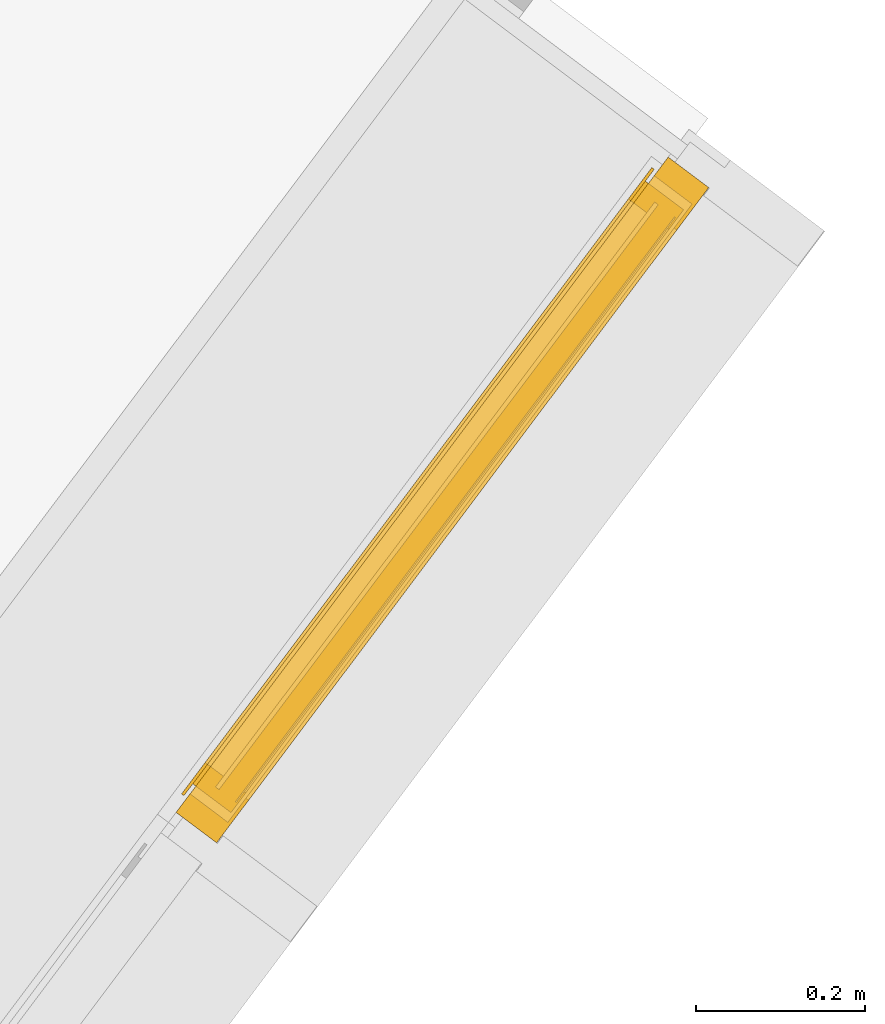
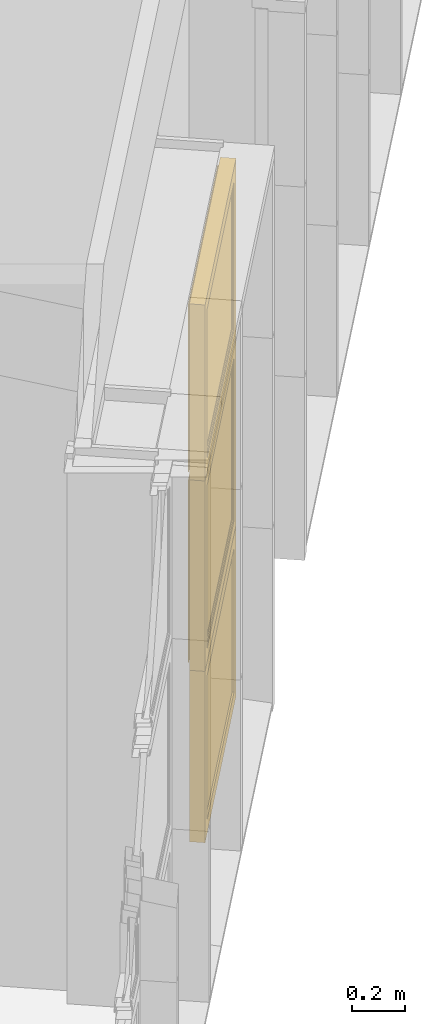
# One storey, part 157 of 243: 3 windows, 1 element without a shape of its own.
"""IFC2X3 building model written with IfcOpenShell, lengths in metres."""

from ifc_helpers import new_model, entity, si_unit, converted_unit, derived_unit, direction, frame, origin, place, context, subcontext, project, spatial, faceted_brep, source, transform, mapped, material, material_list, type_object, type_shapes, element, aggregate, save


model = new_model("IFC2X3")

# Units and contexts
model_context = context("Model", 3, precision=1e-05, world=origin(), true_north=direction((6.123031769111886e-17, 1.0)))
body_context = subcontext(model_context, "Body", "Model", "MODEL_VIEW")
ifc_project = project(units=[si_unit("LENGTHUNIT", "METRE"), si_unit("AREAUNIT", "SQUARE_METRE"), si_unit("VOLUMEUNIT", "CUBIC_METRE"), converted_unit("PLANEANGLEUNIT", "DEGREE", entity("IfcRatioMeasure", 0.017453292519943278), si_unit("PLANEANGLEUNIT", "RADIAN"), dimensions=[0, 0, 0, 0, 0, 0, 0]), si_unit("MASSUNIT", "GRAM", prefix="KILO"), derived_unit("MASSDENSITYUNIT", [(si_unit("MASSUNIT", "GRAM", prefix="KILO"), 1), (si_unit("LENGTHUNIT", "METRE"), -3)]), derived_unit("IONCONCENTRATIONUNIT", [(si_unit("MASSUNIT", "GRAM", prefix="KILO"), 1), (si_unit("LENGTHUNIT", "METRE"), -3)]), derived_unit("MOMENTOFINERTIAUNIT", [(si_unit("LENGTHUNIT", "METRE"), 4)]), si_unit("TIMEUNIT", "SECOND"), si_unit("FREQUENCYUNIT", "HERTZ"), si_unit("THERMODYNAMICTEMPERATUREUNIT", "DEGREE_CELSIUS"), derived_unit("THERMALTRANSMITTANCEUNIT", [(si_unit("MASSUNIT", "GRAM", prefix="KILO"), 1), (si_unit("THERMODYNAMICTEMPERATUREUNIT", "KELVIN"), -1), (si_unit("TIMEUNIT", "SECOND"), -3)]), derived_unit("THERMALCONDUCTANCEUNIT", [(si_unit("MASSUNIT", "GRAM", prefix="KILO"), 1), (si_unit("THERMODYNAMICTEMPERATUREUNIT", "KELVIN"), -1), (si_unit("TIMEUNIT", "SECOND"), -3), (si_unit("LENGTHUNIT", "METRE"), 1)]), derived_unit("VOLUMETRICFLOWRATEUNIT", [(si_unit("LENGTHUNIT", "METRE"), 3), (si_unit("TIMEUNIT", "SECOND"), -1)]), derived_unit("MASSFLOWRATEUNIT", [(si_unit("MASSUNIT", "GRAM", prefix="KILO"), 1), (si_unit("TIMEUNIT", "SECOND"), -1)]), derived_unit("ROTATIONALFREQUENCYUNIT", [(si_unit("TIMEUNIT", "SECOND"), -1)]), si_unit("ELECTRICCURRENTUNIT", "AMPERE"), si_unit("ELECTRICVOLTAGEUNIT", "VOLT"), si_unit("POWERUNIT", "WATT"), si_unit("FORCEUNIT", "NEWTON", prefix="KILO"), si_unit("ILLUMINANCEUNIT", "LUX"), si_unit("LUMINOUSFLUXUNIT", "LUMEN"), si_unit("LUMINOUSINTENSITYUNIT", "CANDELA"), derived_unit("USERDEFINED", [(si_unit("MASSUNIT", "GRAM", prefix="KILO"), -1), (si_unit("LENGTHUNIT", "METRE"), -2), (si_unit("TIMEUNIT", "SECOND"), 3), (si_unit("LUMINOUSFLUXUNIT", "LUMEN"), 1)]), derived_unit("USERDEFINED", [(si_unit("MASSUNIT", "GRAM", prefix="KILO"), 1), (si_unit("TIMEUNIT", "SECOND"), -3), (si_unit("LENGTHUNIT", "METRE"), 3), (si_unit("ELECTRICCURRENTUNIT", "AMPERE"), -2)]), derived_unit("SOUNDPOWERUNIT", [(si_unit("MASSUNIT", "GRAM", prefix="KILO"), 1), (si_unit("TIMEUNIT", "SECOND"), -3), (si_unit("LENGTHUNIT", "METRE"), 2)]), derived_unit("SOUNDPRESSUREUNIT", [(si_unit("MASSUNIT", "GRAM", prefix="KILO"), 1), (si_unit("LENGTHUNIT", "METRE"), -1), (si_unit("TIMEUNIT", "SECOND"), -2)]), derived_unit("LINEARVELOCITYUNIT", [(si_unit("LENGTHUNIT", "METRE"), 1), (si_unit("TIMEUNIT", "SECOND"), -1)]), si_unit("PRESSUREUNIT", "PASCAL"), derived_unit("USERDEFINED", [(si_unit("MASSUNIT", "GRAM", prefix="KILO"), 1), (si_unit("LENGTHUNIT", "METRE"), -2), (si_unit("TIMEUNIT", "SECOND"), -2)]), derived_unit("LINEARFORCEUNIT", [(si_unit("MASSUNIT", "GRAM", prefix="KILO"), 1), (si_unit("TIMEUNIT", "SECOND"), -2)]), derived_unit("PLANARFORCEUNIT", [(si_unit("MASSUNIT", "GRAM", prefix="KILO"), 1), (si_unit("LENGTHUNIT", "METRE"), -1), (si_unit("TIMEUNIT", "SECOND"), -2)]), derived_unit("SPECIFICHEATCAPACITYUNIT", [(si_unit("THERMODYNAMICTEMPERATUREUNIT", "KELVIN"), -1), (si_unit("LENGTHUNIT", "METRE"), 2), (si_unit("TIMEUNIT", "SECOND"), -2)]), derived_unit("HEATINGVALUEUNIT", [(si_unit("LENGTHUNIT", "METRE"), 2), (si_unit("TIMEUNIT", "SECOND"), -2)]), derived_unit("VAPORPERMEABILITYUNIT", [(si_unit("LENGTHUNIT", "METRE"), -1), (si_unit("TIMEUNIT", "SECOND"), 1)]), derived_unit("DYNAMICVISCOSITYUNIT", [(si_unit("MASSUNIT", "GRAM", prefix="KILO"), 1), (si_unit("TIMEUNIT", "SECOND"), -1), (si_unit("LENGTHUNIT", "METRE"), -1)]), derived_unit("THERMALEXPANSIONCOEFFICIENTUNIT", [(si_unit("THERMODYNAMICTEMPERATUREUNIT", "KELVIN"), -1)]), derived_unit("MODULUSOFELASTICITYUNIT", [(si_unit("MASSUNIT", "GRAM", prefix="KILO"), 1), (si_unit("LENGTHUNIT", "METRE"), -1), (si_unit("TIMEUNIT", "SECOND"), -2)]), derived_unit("ISOTHERMALMOISTURECAPACITYUNIT", [(si_unit("LENGTHUNIT", "METRE"), 3), (si_unit("MASSUNIT", "GRAM", prefix="KILO"), -1)]), derived_unit("MOISTUREDIFFUSIVITYUNIT", [(si_unit("TIMEUNIT", "SECOND"), -1), (si_unit("LENGTHUNIT", "METRE"), 2)])], contexts=[model_context])

# Site, building, storey
site_placement = place(None, frame((0.0, 0.0, 235.0), z_axis=(0.0, 0.0, 1.0), x_axis=(-0.7996477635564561, 0.6004693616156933, 0.0)))
site = spatial("IfcSite", under=ifc_project, at=site_placement, Name="Default", CompositionType="ELEMENT")
building_placement = place(site_placement, origin())
building = spatial("IfcBuilding", under=site, at=building_placement, CompositionType="ELEMENT")
storey_placement = place(building_placement, origin())
storey = spatial("IfcBuildingStorey", under=building, at=storey_placement, Name="P0- Escola", CompositionType="ELEMENT", Elevation=0.0)

# Curtain wall, windows
curtain_wall_type = type_object("IfcCurtainWallType", Name="Muro cortina:MC- EXT- MC2", PredefinedType="NOTDEFINED")
curtain_wall_placement = place(storey_placement, origin())
curtain_wall = element("IfcCurtainWall", 1, at=curtain_wall_placement, inside=storey, type_object=curtain_wall_type, Name="Muro cortina:MC- EXT- MC2", ObjectType="Muro cortina:MC- EXT- MC2")
ifc_material_1 = material(Name="_Vidre")
ifc_material_2 = material(Name="_Alumini- T1- Perfil")
ifc_material_list = material_list([ifc_material_1, ifc_material_2])
window_style_1 = type_object("IfcWindowStyle", Name="MC- Alu- Conjunt vidre fix- 62x60 cm:MC- Alu- Conjunt vidre fix- 62x60 cm", ConstructionType="NOTDEFINED", OperationType="NOTDEFINED", ParameterTakesPrecedence=False, Sizeable=False, material=ifc_material_list)
shared_shape_1 = source(origin(), body_context, "Body", "Brep", [
    faceted_brep([(0.4361932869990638, -0.007600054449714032, 0.048806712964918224), (0.4361932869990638, -0.03160022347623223, 0.048806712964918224), (-0.4361932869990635, -0.03160022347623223, 0.048806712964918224), (-0.4361932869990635, -0.007600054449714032, 0.048806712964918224), (0.4361932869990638, -0.007600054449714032, 0.7387000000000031), (-0.4361932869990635, -0.007600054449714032, 0.7387000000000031), (-0.4361932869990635, -0.03160022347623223, 0.7387000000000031), (0.4361932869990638, -0.03160022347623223, 0.7387000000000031)], [[[0, 1, 2, 3]], [[4, 0, 3, 5]], [[5, 3, 2, 6]], [[6, 2, 1, 7]], [[7, 1, 0, 4]], [[4, 5, 6, 7]]]),
    faceted_brep([(0.48499999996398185, -0.05999999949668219, 0.7877000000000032), (0.48499999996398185, -0.05999999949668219, 0.0), (0.48499999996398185, 0.0, 0.0), (0.48499999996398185, 0.0, 0.787700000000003), (-0.48499999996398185, 0.0, 0.7877000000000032), (-0.48499999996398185, 0.0, 0.0), (0.4221931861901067, 0.0, 0.7248931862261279), (-0.42219318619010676, 0.0, 0.724893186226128), (-0.4221931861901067, 0.0, 0.0628068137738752), (0.4221931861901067, 0.0, 0.06280681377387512), (-0.48499999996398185, -0.05999999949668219, 0.0), (-0.48499999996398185, -0.05999999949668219, 0.7877000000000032), (-0.42219603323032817, -0.05999999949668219, 0.7248960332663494), (0.42219603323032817, -0.05999999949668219, 0.7248960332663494), (0.42219603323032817, -0.05999999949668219, 0.0628039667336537), (-0.42219603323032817, -0.05999999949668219, 0.0628039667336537), (0.4221960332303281, -0.03160022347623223, 0.7248960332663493), (0.42219603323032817, -0.03160022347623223, 0.0628039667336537), (-0.42219603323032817, -0.03160022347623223, 0.06280396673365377), (-0.42219603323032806, -0.03160022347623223, 0.7248960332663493), (-0.43619328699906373, -0.03160022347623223, 0.738893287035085), (0.43619328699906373, -0.03160022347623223, 0.738893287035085), (0.43619328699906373, -0.03160022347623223, 0.048806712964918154), (-0.43619328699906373, -0.03160022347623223, 0.04880671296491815), (0.43619328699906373, -0.007600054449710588, 0.738893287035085), (0.43619328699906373, -0.007600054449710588, 0.04880671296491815), (-0.43619328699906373, -0.007600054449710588, 0.048806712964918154), (-0.43619328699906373, -0.007600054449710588, 0.738893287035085), (-0.42219318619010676, -0.007600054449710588, 0.724893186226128), (0.42219318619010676, -0.007600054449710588, 0.724893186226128), (0.42219318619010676, -0.007600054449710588, 0.06280681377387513), (-0.42219318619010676, -0.007600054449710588, 0.06280681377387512)], [[[0, 1, 2, 3]], [[4, 3, 2, 5], [6, 7, 8, 9]], [[1, 10, 5, 2]], [[0, 11, 10, 1], [12, 13, 14, 15]], [[16, 17, 14, 13]], [[17, 18, 15, 14]], [[16, 19, 18, 17], [20, 21, 22, 23]], [[24, 25, 22, 21]], [[25, 26, 23, 22]], [[24, 27, 26, 25], [28, 29, 30, 31]], [[6, 9, 30, 29]], [[9, 8, 31, 30]], [[10, 11, 4, 5]], [[18, 19, 12, 15]], [[26, 27, 20, 23]], [[8, 7, 28, 31]], [[11, 0, 3, 4]], [[19, 16, 13, 12]], [[27, 24, 21, 20]], [[7, 6, 29, 28]]], outer=[[True], [True, False], [True], [True, False], [True], [True], [False, True], [True], [True], [True, False], [True], [True], [True], [True], [True], [True], [True], [True], [True], [True]]),
])
type_shapes(window_style_1, [shared_shape_1])
window_1_placement = place(curtain_wall_placement, frame((28.34514768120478, -23.915191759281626, 0.03229999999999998), z_axis=(0.0, 0.0, 1.0), x_axis=(0.0, 1.0, 0.0)))
window_1 = element("IfcWindow", 2, at=window_1_placement, type_object=window_style_1, material=ifc_material_list, Name="MC- Alu- Conjunt vidre fix- 62x60 cm:MC- Alu- Conjunt vidre fix- 62x60 cm", ObjectType="MC- Alu- Conjunt vidre fix- 62x60 cm:MC- Alu- Conjunt vidre fix- 62x60 cm", OverallHeight=0.7877000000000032, OverallWidth=0.9699999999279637, context=body_context, shape_type="MappedRepresentation", body=[
    mapped(shared_shape_1, transform((0.0, 0.0, 0.0), scale=1.0)),
])
window_style_2 = type_object("IfcWindowStyle", Name="MC- Alu- Conjunt finestra basculant- 68x68 cm:MC- Alu- Conjunt finestra basculant- 68x68 cm", ConstructionType="NOTDEFINED", OperationType="NOTDEFINED", ParameterTakesPrecedence=False, Sizeable=False, material=ifc_material_list)
shared_shape_2 = source(origin(), body_context, "Body", "Brep", [
    faceted_brep([(0.43291170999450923, -0.03559830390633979, 0.051999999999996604), (-0.43291170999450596, -0.03559830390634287, 0.051999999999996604), (-0.43291170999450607, -0.011598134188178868, 0.051999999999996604), (0.43291170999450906, -0.011598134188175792, 0.051999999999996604), (0.43291170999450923, -0.035598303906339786, 0.8228027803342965), (0.43291170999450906, -0.011598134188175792, 0.8228027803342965), (-0.43291170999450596, -0.011598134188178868, 0.8228027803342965), (-0.43291170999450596, -0.03559830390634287, 0.8228027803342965)], [[[0, 1, 2, 3]], [[4, 0, 3, 5]], [[5, 3, 2, 6]], [[6, 2, 1, 7]], [[7, 1, 0, 4]], [[4, 5, 6, 7]]]),
    faceted_brep([(-0.4172108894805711, -0.009998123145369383, 0.8071019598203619), (-0.4172108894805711, -0.00999812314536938, 0.06789804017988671), (-0.4172108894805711, -0.007998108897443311, 0.06789804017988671), (-0.4172108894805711, -0.007998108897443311, 0.8071019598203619), (-0.44610892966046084, -0.007998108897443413, 0.8360000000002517), (0.44610892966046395, -0.007998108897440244, 0.8360000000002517), (0.44610892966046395, -0.007998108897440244, 0.03899999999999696), (-0.44610892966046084, -0.007998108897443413, 0.03899999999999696), (0.4172108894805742, -0.007998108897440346, 0.8071019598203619), (0.4172108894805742, -0.007998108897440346, 0.06789804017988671), (0.4172108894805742, -0.009998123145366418, 0.06789804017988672), (0.4172108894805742, -0.009998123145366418, 0.8071019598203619), (0.4329117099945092, -0.00999812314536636, 0.8228027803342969), (-0.43291170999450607, -0.009998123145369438, 0.8228027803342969), (-0.43291170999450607, -0.009998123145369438, 0.05219721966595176), (0.4329117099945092, -0.00999812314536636, 0.052197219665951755), (-0.4329117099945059, -0.04079986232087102, 0.8228027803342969), (-0.4329117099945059, -0.04079986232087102, 0.052197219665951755), (0.4329117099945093, -0.04079986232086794, 0.05219721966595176), (0.4329117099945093, -0.04079986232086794, 0.8228027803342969), (0.41721088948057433, -0.040799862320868, 0.8071019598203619), (-0.41721088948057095, -0.04079986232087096, 0.8071019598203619), (-0.41721088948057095, -0.04079986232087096, 0.06789804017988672), (0.41721088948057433, -0.040799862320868, 0.06789804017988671), (-0.4172108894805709, -0.06800005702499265, 0.8071019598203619), (-0.4172108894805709, -0.06800005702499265, 0.06789804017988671), (0.4172108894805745, -0.0680000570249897, 0.06789804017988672), (0.4172108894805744, -0.0680000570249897, 0.8071019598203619), (0.4636128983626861, -0.06800005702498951, 0.8535039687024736), (-0.4636128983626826, -0.06800005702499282, 0.8535039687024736), (-0.4636128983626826, -0.06800005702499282, 0.021496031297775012), (0.4636128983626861, -0.06800005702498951, 0.021496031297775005), (-0.4636128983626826, -0.0645000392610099, 0.8535039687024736), (-0.4636128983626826, -0.06450003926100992, 0.021496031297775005), (0.4636128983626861, -0.06450003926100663, 0.021496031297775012), (0.4636128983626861, -0.06450003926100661, 0.8535039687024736), (0.44610892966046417, -0.06450003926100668, 0.8360000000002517), (-0.4461089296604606, -0.06450003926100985, 0.8360000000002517), (-0.4461089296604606, -0.06450003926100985, 0.03899999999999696), (0.44610892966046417, -0.06450003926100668, 0.038999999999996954)], [[[0, 1, 2, 3]], [[4, 5, 6, 7], [8, 3, 2, 9]], [[1, 10, 9, 2]], [[0, 11, 10, 1], [12, 13, 14, 15]], [[16, 17, 14, 13]], [[17, 18, 15, 14]], [[16, 19, 18, 17], [20, 21, 22, 23]], [[24, 25, 22, 21]], [[25, 26, 23, 22]], [[24, 27, 26, 25], [28, 29, 30, 31]], [[32, 33, 30, 29]], [[33, 34, 31, 30]], [[32, 35, 34, 33], [36, 37, 38, 39]], [[4, 7, 38, 37]], [[7, 6, 39, 38]], [[10, 11, 8, 9]], [[18, 19, 12, 15]], [[26, 27, 20, 23]], [[34, 35, 28, 31]], [[6, 5, 36, 39]], [[11, 0, 3, 8]], [[19, 16, 13, 12]], [[27, 24, 21, 20]], [[35, 32, 29, 28]], [[5, 4, 37, 36]]], outer=[[True], [True, False], [True], [False, True], [True], [True], [True, False], [True], [True], [False, True], [True], [True], [True, False], [True], [True], [True], [True], [True], [True], [True], [True], [True], [True], [True], [True]]),
    faceted_brep([(0.42219318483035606, 0.0, 0.8121931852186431), (0.42219318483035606, 0.0, 0.06280681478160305), (0.42219318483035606, -0.0040000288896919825, 0.06280681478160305), (0.42219318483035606, -0.0040000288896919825, 0.8121931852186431), (-0.42219318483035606, -0.0040000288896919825, 0.8121931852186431), (-0.42219318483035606, -0.0040000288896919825, 0.06280681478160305), (0.4575998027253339, -0.0040000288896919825, 0.8475998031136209), (-0.4575998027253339, -0.0040000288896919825, 0.8475998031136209), (-0.4575998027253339, -0.0040000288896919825, 0.027400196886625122), (0.4575998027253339, -0.0040000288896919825, 0.02740019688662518), (-0.42219318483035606, 0.0, 0.06280681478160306), (-0.42219318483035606, 0.0, 0.8121931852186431), (-0.48499999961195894, 0.0, 0.875000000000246), (0.48499999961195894, 0.0, 0.875000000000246), (0.48499999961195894, 0.0, 0.0), (-0.48499999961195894, 0.0, 0.0), (0.48499999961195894, -0.05999999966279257, 0.875000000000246), (0.48499999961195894, -0.05999999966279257, 0.0), (-0.48499999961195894, -0.05999999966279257, 0.0), (-0.48499999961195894, -0.05999999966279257, 0.875000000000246), (-0.4575998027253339, -0.05999999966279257, 0.8475998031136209), (0.4575998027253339, -0.05999999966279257, 0.8475998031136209), (0.4575998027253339, -0.05999999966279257, 0.027400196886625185), (-0.4575998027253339, -0.05999999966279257, 0.02740019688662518)], [[[0, 1, 2, 3]], [[4, 3, 2, 5], [6, 7, 8, 9]], [[1, 10, 5, 2]], [[0, 11, 10, 1], [12, 13, 14, 15]], [[16, 17, 14, 13]], [[17, 18, 15, 14]], [[16, 19, 18, 17], [20, 21, 22, 23]], [[6, 9, 22, 21]], [[9, 8, 23, 22]], [[10, 11, 4, 5]], [[18, 19, 12, 15]], [[8, 7, 20, 23]], [[11, 0, 3, 4]], [[19, 16, 13, 12]], [[7, 6, 21, 20]]], outer=[[True], [False, True], [True], [False, True], [True], [True], [True, False], [True], [True], [True], [True], [True], [True], [True], [True]]),
])
type_shapes(window_style_2, [shared_shape_2])
window_2_placement = place(curtain_wall_placement, frame((28.34514768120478, -23.915191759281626, 0.8200000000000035), z_axis=(0.0, 0.0, 1.0), x_axis=(0.0, 1.0, 0.0)))
window_2 = element("IfcWindow", 3, at=window_2_placement, type_object=window_style_2, material=ifc_material_list, Name="MC- Alu- Conjunt finestra basculant- 68x68 cm:MC- Alu- Conjunt finestra basculant- 68x68 cm", ObjectType="MC- Alu- Conjunt finestra basculant- 68x68 cm:MC- Alu- Conjunt finestra basculant- 68x68 cm", OverallHeight=0.8750000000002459, OverallWidth=0.9699999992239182, context=body_context, shape_type="MappedRepresentation", body=[
    mapped(shared_shape_2, transform((0.0, 0.0, 0.0), scale=1.0)),
])
window_style_3 = type_object("IfcWindowStyle", Name="MC- Alu- Conjunt finestra basculant- 68x68 cm:MC- Alu- Conjunt finestra basculant- 68x68 cm", ConstructionType="NOTDEFINED", OperationType="NOTDEFINED", ParameterTakesPrecedence=False, Sizeable=False, material=ifc_material_list)
shared_shape_3 = source(origin(), body_context, "Body", "Brep", [
    faceted_brep([(0.432911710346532, -0.03559830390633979, 0.051999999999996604), (-0.43291171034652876, -0.03559830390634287, 0.051999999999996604), (-0.4329117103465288, -0.011598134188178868, 0.051999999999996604), (0.43291171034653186, -0.011598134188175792, 0.051999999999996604), (0.432911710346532, -0.035598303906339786, 0.7565527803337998), (0.43291171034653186, -0.011598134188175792, 0.7565527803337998), (-0.43291171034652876, -0.011598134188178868, 0.7565527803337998), (-0.43291171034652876, -0.03559830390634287, 0.7565527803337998)], [[[0, 1, 2, 3]], [[4, 0, 3, 5]], [[5, 3, 2, 6]], [[6, 2, 1, 7]], [[7, 1, 0, 4]], [[4, 5, 6, 7]]]),
    faceted_brep([(-0.41721088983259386, -0.009998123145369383, 0.7408519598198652), (-0.41721088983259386, -0.00999812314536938, 0.06789804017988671), (-0.41721088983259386, -0.007998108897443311, 0.06789804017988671), (-0.41721088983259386, -0.007998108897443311, 0.7408519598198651), (-0.4461089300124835, -0.007998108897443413, 0.7697499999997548), (0.44610893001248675, -0.007998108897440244, 0.7697499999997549), (0.4461089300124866, -0.007998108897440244, 0.03899999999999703), (-0.44610893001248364, -0.007998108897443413, 0.03899999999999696), (0.41721088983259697, -0.007998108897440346, 0.7408519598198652), (0.41721088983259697, -0.007998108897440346, 0.06789804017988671), (0.41721088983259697, -0.009998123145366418, 0.06789804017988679), (0.41721088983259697, -0.009998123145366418, 0.7408519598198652), (0.4329117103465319, -0.00999812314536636, 0.7565527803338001), (-0.4329117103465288, -0.009998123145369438, 0.7565527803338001), (-0.4329117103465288, -0.009998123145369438, 0.05219721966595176), (0.4329117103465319, -0.00999812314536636, 0.052197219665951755), (-0.4329117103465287, -0.04079986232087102, 0.7565527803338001), (-0.4329117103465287, -0.04079986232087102, 0.052197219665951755), (0.4329117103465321, -0.04079986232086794, 0.05219721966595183), (0.4329117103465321, -0.04079986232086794, 0.7565527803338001), (0.41721088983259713, -0.040799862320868, 0.7408519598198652), (-0.41721088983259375, -0.04079986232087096, 0.7408519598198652), (-0.41721088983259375, -0.04079986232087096, 0.06789804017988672), (0.41721088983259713, -0.040799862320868, 0.06789804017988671), (-0.4172108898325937, -0.06800005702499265, 0.7408519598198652), (-0.4172108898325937, -0.06800005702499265, 0.06789804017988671), (0.41721088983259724, -0.0680000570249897, 0.06789804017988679), (0.4172108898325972, -0.0680000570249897, 0.7408519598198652), (0.4636128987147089, -0.06800005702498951, 0.7872539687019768), (-0.46361289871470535, -0.06800005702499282, 0.7872539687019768), (-0.46361289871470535, -0.06800005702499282, 0.021496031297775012), (0.4636128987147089, -0.06800005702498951, 0.021496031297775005), (-0.46361289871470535, -0.0645000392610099, 0.7872539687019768), (-0.46361289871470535, -0.06450003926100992, 0.021496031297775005), (0.4636128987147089, -0.06450003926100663, 0.02149603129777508), (0.4636128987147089, -0.06450003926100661, 0.7872539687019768), (0.4461089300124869, -0.06450003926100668, 0.7697499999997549), (-0.4461089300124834, -0.06450003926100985, 0.7697499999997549), (-0.4461089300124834, -0.06450003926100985, 0.03899999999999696), (0.4461089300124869, -0.06450003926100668, 0.038999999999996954)], [[[0, 1, 2, 3]], [[4, 5, 6, 7], [8, 3, 2, 9]], [[1, 10, 9, 2]], [[0, 11, 10, 1], [12, 13, 14, 15]], [[16, 17, 14, 13]], [[17, 18, 15, 14]], [[16, 19, 18, 17], [20, 21, 22, 23]], [[24, 25, 22, 21]], [[25, 26, 23, 22]], [[24, 27, 26, 25], [28, 29, 30, 31]], [[32, 33, 30, 29]], [[33, 34, 31, 30]], [[32, 35, 34, 33], [36, 37, 38, 39]], [[4, 7, 38, 37]], [[7, 6, 39, 38]], [[10, 11, 8, 9]], [[18, 19, 12, 15]], [[26, 27, 20, 23]], [[34, 35, 28, 31]], [[6, 5, 36, 39]], [[11, 0, 3, 8]], [[19, 16, 13, 12]], [[27, 24, 21, 20]], [[35, 32, 29, 28]], [[5, 4, 37, 36]]], outer=[[True], [True, False], [True], [False, True], [True], [True], [True, False], [True], [True], [False, True], [True], [True], [True, False], [True], [True], [True], [True], [True], [True], [True], [True], [True], [True], [True], [True]]),
    faceted_brep([(0.4221931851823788, 0.0, 0.7459431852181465), (0.4221931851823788, 0.0, 0.06280681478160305), (0.4221931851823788, -0.0040000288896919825, 0.06280681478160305), (0.4221931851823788, -0.0040000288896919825, 0.7459431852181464), (-0.4221931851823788, -0.0040000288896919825, 0.7459431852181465), (-0.4221931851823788, -0.0040000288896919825, 0.06280681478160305), (0.4575998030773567, -0.0040000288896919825, 0.7813498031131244), (-0.4575998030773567, -0.0040000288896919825, 0.7813498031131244), (-0.4575998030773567, -0.0040000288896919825, 0.027400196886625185), (0.4575998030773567, -0.0040000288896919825, 0.02740019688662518), (-0.4221931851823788, 0.0, 0.06280681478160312), (-0.4221931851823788, 0.0, 0.7459431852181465), (-0.48499999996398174, 0.0, 0.8087499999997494), (0.48499999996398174, 0.0, 0.8087499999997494), (0.48499999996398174, 0.0, 0.0), (-0.48499999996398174, 0.0, 0.0), (0.48499999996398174, -0.05999999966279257, 0.8087499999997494), (0.48499999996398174, -0.05999999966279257, 0.0), (-0.48499999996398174, -0.05999999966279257, 0.0), (-0.48499999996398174, -0.05999999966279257, 0.8087499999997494), (-0.4575998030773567, -0.05999999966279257, 0.7813498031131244), (0.4575998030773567, -0.05999999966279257, 0.7813498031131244), (0.4575998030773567, -0.05999999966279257, 0.027400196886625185), (-0.4575998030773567, -0.05999999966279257, 0.02740019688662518)], [[[0, 1, 2, 3]], [[4, 3, 2, 5], [6, 7, 8, 9]], [[1, 10, 5, 2]], [[0, 11, 10, 1], [12, 13, 14, 15]], [[16, 17, 14, 13]], [[17, 18, 15, 14]], [[16, 19, 18, 17], [20, 21, 22, 23]], [[6, 9, 22, 21]], [[9, 8, 23, 22]], [[10, 11, 4, 5]], [[18, 19, 12, 15]], [[8, 7, 20, 23]], [[11, 0, 3, 4]], [[19, 16, 13, 12]], [[7, 6, 21, 20]]], outer=[[True], [False, True], [True], [False, True], [True], [True], [True, False], [True], [True], [True], [True], [True], [True], [True], [True]]),
])
type_shapes(window_style_3, [shared_shape_3])
window_3_placement = place(curtain_wall_placement, frame((28.34514768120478, -23.915191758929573, 1.6950000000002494), z_axis=(0.0, 0.0, 1.0), x_axis=(0.0, 1.0, 0.0)))
window_3 = element("IfcWindow", 4, at=window_3_placement, type_object=window_style_3, material=ifc_material_list, Name="MC- Alu- Conjunt finestra basculant- 68x68 cm:MC- Alu- Conjunt finestra basculant- 68x68 cm", ObjectType="MC- Alu- Conjunt finestra basculant- 68x68 cm:MC- Alu- Conjunt finestra basculant- 68x68 cm", OverallHeight=0.8087499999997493, OverallWidth=0.9699999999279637, context=body_context, shape_type="MappedRepresentation", body=[
    mapped(shared_shape_3, transform((0.0, 0.0, 0.0), scale=1.0)),
])
aggregate(curtain_wall, [window_1, window_2, window_3])

save(model, "model.ifc")
